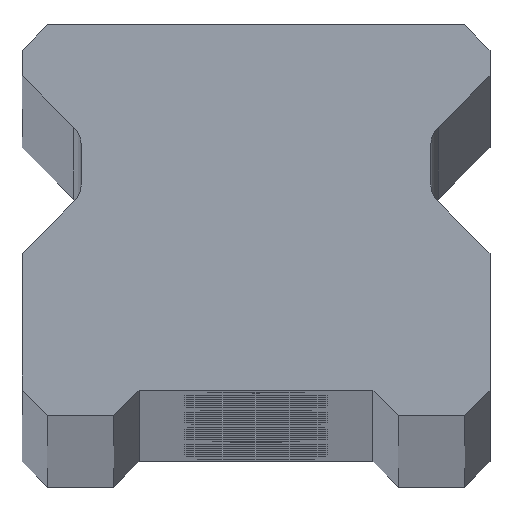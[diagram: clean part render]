
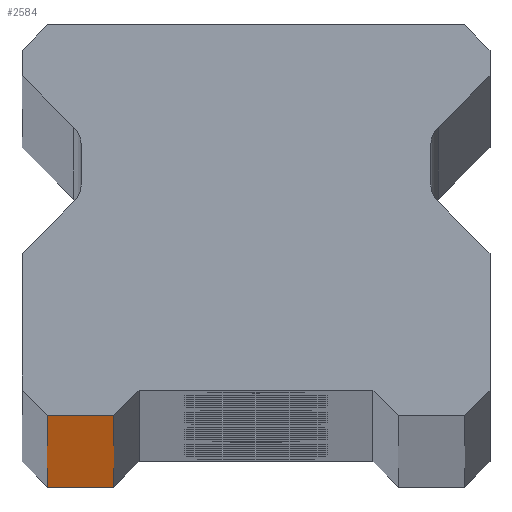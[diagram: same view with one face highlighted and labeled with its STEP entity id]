
A CAD part, top view. The second image highlights one B-rep face of the part: STEP entity #2584.
In plain terms, the highlighted planar face has unit normal (0, -1, 0).
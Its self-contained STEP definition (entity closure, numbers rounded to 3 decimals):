
#39 = EDGE_CURVE ( 'NONE', #2850, #5605, #4420, .T. ) ;
#240 = FACE_OUTER_BOUND ( 'NONE', #2522, .T. ) ;
#279 = CARTESIAN_POINT ( 'NONE',  ( 11.5, 0., 1010. ) ) ;
#318 = CARTESIAN_POINT ( 'NONE',  ( -10.25, 0., 1010. ) ) ;
#429 = PLANE ( 'NONE',  #4595 ) ;
#492 = VECTOR ( 'NONE', #1586, 1000. ) ;
#560 = DIRECTION ( 'NONE',  ( 0., 0., 1. ) ) ;
#645 = LINE ( 'NONE', #1612, #492 ) ;
#879 = DIRECTION ( 'NONE',  ( -1., 0., 0. ) ) ;
#1273 = CARTESIAN_POINT ( 'NONE',  ( -7., 0., 1010. ) ) ;
#1454 = CARTESIAN_POINT ( 'NONE',  ( -10.25, 0., 1010. ) ) ;
#1586 = DIRECTION ( 'NONE',  ( 1., 0., 0. ) ) ;
#1612 = CARTESIAN_POINT ( 'NONE',  ( 11.5, 0., -1010. ) ) ;
#1791 = CARTESIAN_POINT ( 'NONE',  ( -7., 0., -1010. ) ) ;
#1815 = CARTESIAN_POINT ( 'NONE',  ( 11.5, 0., 1010. ) ) ;
#2442 = EDGE_CURVE ( 'NONE', #3920, #5605, #3125, .T. ) ;
#2478 = VECTOR ( 'NONE', #560, 1000. ) ;
#2522 = EDGE_LOOP ( 'NONE', ( #4155, #5117, #4776, #2958 ) ) ;
#2584 = ADVANCED_FACE ( 'NONE', ( #240 ), #429, .F. ) ;
#2660 = DIRECTION ( 'NONE',  ( 0., 0., -1. ) ) ;
#2850 = VERTEX_POINT ( 'NONE', #1791 ) ;
#2958 = ORIENTED_EDGE ( 'NONE', *, *, #4336, .T. ) ;
#3015 = LINE ( 'NONE', #318, #3841 ) ;
#3109 = VERTEX_POINT ( 'NONE', #3508 ) ;
#3125 = LINE ( 'NONE', #279, #4901 ) ;
#3508 = CARTESIAN_POINT ( 'NONE',  ( -10.25, 0., -1010. ) ) ;
#3841 = VECTOR ( 'NONE', #2660, 1000. ) ;
#3920 = VERTEX_POINT ( 'NONE', #1454 ) ;
#4046 = DIRECTION ( 'NONE',  ( 1., 0., 0. ) ) ;
#4155 = ORIENTED_EDGE ( 'NONE', *, *, #4448, .T. ) ;
#4336 = EDGE_CURVE ( 'NONE', #3920, #3109, #3015, .T. ) ;
#4420 = LINE ( 'NONE', #5323, #2478 ) ;
#4448 = EDGE_CURVE ( 'NONE', #3109, #2850, #645, .T. ) ;
#4595 = AXIS2_PLACEMENT_3D ( 'NONE', #1815, #5115, #879 ) ;
#4776 = ORIENTED_EDGE ( 'NONE', *, *, #2442, .F. ) ;
#4901 = VECTOR ( 'NONE', #4046, 1000. ) ;
#5115 = DIRECTION ( 'NONE',  ( 0., 1., 0. ) ) ;
#5117 = ORIENTED_EDGE ( 'NONE', *, *, #39, .T. ) ;
#5323 = CARTESIAN_POINT ( 'NONE',  ( -7., 0., -1010. ) ) ;
#5605 = VERTEX_POINT ( 'NONE', #1273 ) ;
